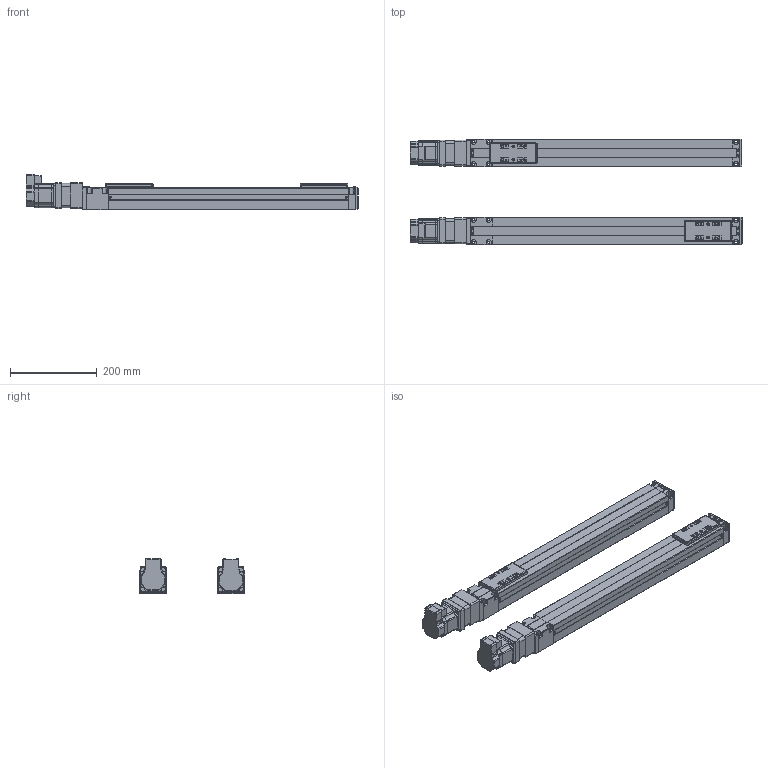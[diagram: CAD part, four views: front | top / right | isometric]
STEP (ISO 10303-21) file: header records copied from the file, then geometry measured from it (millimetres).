
FILE_DESCRIPTION(('STEP AP214'),'1');
FILE_NAME('F:\外形図\3D_DAD2\SCLT6\SCLT6_B\tmp0.step',' ',(' '),(' '),'XStep 1.0',' ',' ');
FILE_SCHEMA(('automotive_design'));
Length unit declared in the file: millimetre
Bounding box: 767 x 244 x 83 mm (x, y, z)
Volume: 4944192.9 mm3; surface area: 837592.9 mm2
Topology: 54 solids, 54 shells, 2200 faces, 5994 edges, 3932 vertices
Faces by surface type: plane 1718, cylinder 384, bspline 74, sphere 16, cone 8
Entity records: 89297 total; most frequent: CARTESIAN_POINT 14266, ORIENTED_EDGE 11956, DIRECTION 11242, EDGE_CURVE 5978, LINE 5074, VECTOR 5074, VERTEX_POINT 3932, AXIS2_PLACEMENT_3D 3084
